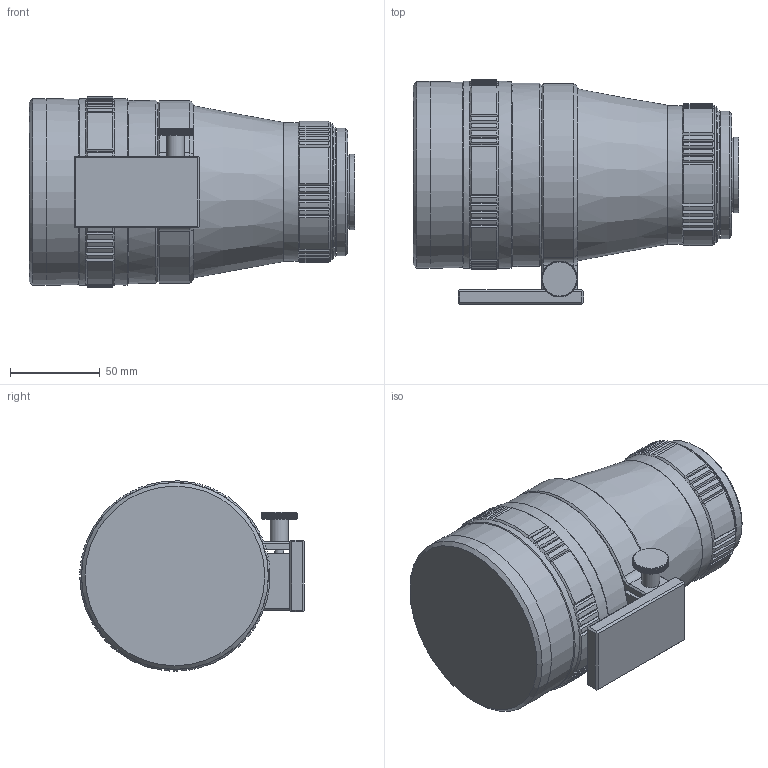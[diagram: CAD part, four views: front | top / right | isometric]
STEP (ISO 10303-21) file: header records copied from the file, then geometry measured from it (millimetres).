
FILE_DESCRIPTION((''),'2;1');
FILE_NAME('C:\Users\dblandino\Desktop\C1116_003_001.stp','2014-04-28T12:30:13',('dblandino'),(''),'Autodesk Inventor 2010','Autodesk Inventor 2010','');
FILE_SCHEMA(('AUTOMOTIVE_DESIGN { 1 0 10303 214 1 1 1 1 }'));
Length unit declared in the file: millimetre
Products named in the file (2): C1116_003_001.iam (Livello di dettaglio sostituto1); C1116_003_001_SUB
Assembly tree (1 placements, depth 2):
  C1116_003_001.iam (Livello di dettaglio sostituto1)
    C1116_003_001_SUB
Bounding box: 181.32 x 124.99 x 105.97 mm (x, y, z)
Volume: 1266082.4 mm3; surface area: 83023.9 mm2
Topology: 1 solids, 1 shells, 751 faces, 1937 edges, 1194 vertices
Faces by surface type: plane 409, cylinder 188, cone 148, bspline 6
Full cylindrical faces by diameter (mm): 5 x1, 10 x1, 40.7 x1, 42 x1, 71 x1, 76 x1, 77 x1, 102 x1, 104 x3
Entity records: 22556 total; most frequent: CARTESIAN_POINT 5151, ORIENTED_EDGE 3810, DIRECTION 3315, EDGE_CURVE 1905, AXIS2_PLACEMENT_3D 1292, VERTEX_POINT 1184, EDGE_LOOP 783, STYLED_ITEM 752
